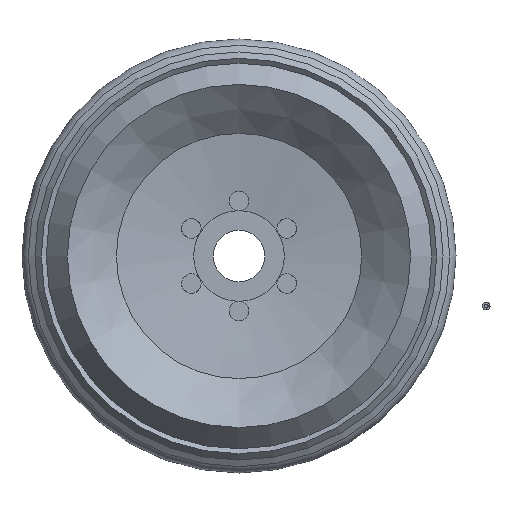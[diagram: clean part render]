
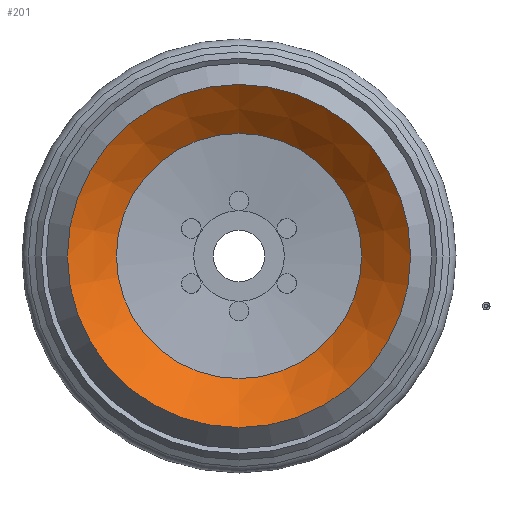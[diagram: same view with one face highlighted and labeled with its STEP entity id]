
A CAD part, front view. The second image highlights one B-rep face of the part: STEP entity #201.
In plain terms, the highlighted conical face has half-angle 49.128 degrees and reference radius 18.929 mm.
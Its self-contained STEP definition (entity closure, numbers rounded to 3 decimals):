
#201=ADVANCED_FACE('',(#378,#379),#380,.F.);
#378=FACE_OUTER_BOUND('',#529,.T.);
#379=FACE_BOUND('',#530,.T.);
#380=CONICAL_SURFACE('',#531,18.929,0.857);
#529=EDGE_LOOP('',(#752));
#530=EDGE_LOOP('',(#753));
#531=AXIS2_PLACEMENT_3D('',#754,#755,#756);
#752=ORIENTED_EDGE('',*,*,#839,.T.);
#753=ORIENTED_EDGE('',*,*,#837,.F.);
#754=CARTESIAN_POINT('',(0.,-30.583,0.));
#755=DIRECTION('',(0.,-1.0,0.));
#756=DIRECTION('',(0.0,0.,-1.0));
#837=EDGE_CURVE('',#945,#945,#946,.T.);
#839=EDGE_CURVE('',#948,#948,#949,.T.);
#945=VERTEX_POINT('',#1357);
#946=CIRCLE('',#1358,18.929);
#948=VERTEX_POINT('',#1360);
#949=CIRCLE('',#1361,26.488);
#1357=CARTESIAN_POINT('',(0.,-30.583,-18.929));
#1358=AXIS2_PLACEMENT_3D('',#1459,#1460,#1461);
#1360=CARTESIAN_POINT('',(0.,-37.124,-26.488));
#1361=AXIS2_PLACEMENT_3D('',#1462,#1463,#1464);
#1459=CARTESIAN_POINT('',(0.,-30.583,0.));
#1460=DIRECTION('',(0.,-1.0,0.));
#1461=DIRECTION('',(0.0,0.,-1.0));
#1462=CARTESIAN_POINT('',(0.,-37.124,0.));
#1463=DIRECTION('',(0.,-1.0,0.));
#1464=DIRECTION('',(0.0,0.,-1.0));
